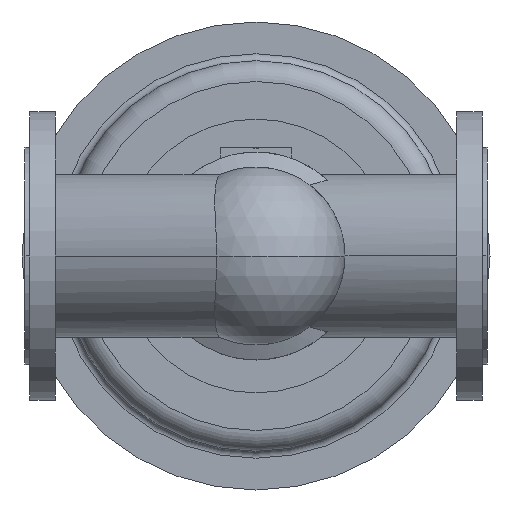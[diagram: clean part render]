
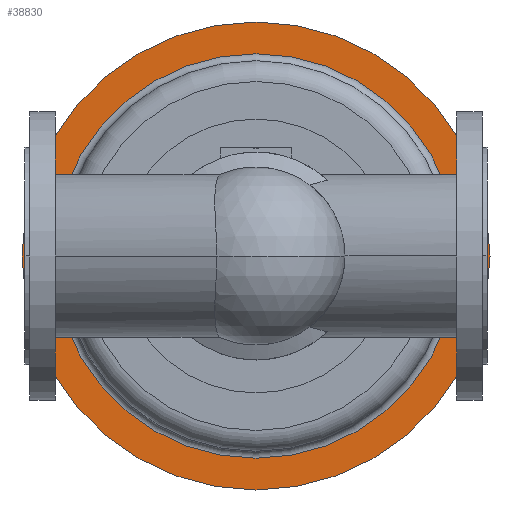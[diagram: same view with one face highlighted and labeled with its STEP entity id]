
A CAD part, front view. The second image highlights one B-rep face of the part: STEP entity #38830.
In plain terms, the highlighted planar face has unit normal (0, -1, 0).
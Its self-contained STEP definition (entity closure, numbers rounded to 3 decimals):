
#33230=CARTESIAN_POINT('',(-2.5,615.,0.));
#33240=VERTEX_POINT('',#33230);
#33400=CARTESIAN_POINT('',(402.5,615.,0.));
#33410=VERTEX_POINT('',#33400);
#33440=CARTESIAN_POINT('',(200.,615.,0.));
#33450=DIRECTION('',(0.,1.,0.));
#33460=DIRECTION('',(1.,0.,0.));
#33470=AXIS2_PLACEMENT_3D('',#33440,#33450,#33460);
#33480=CIRCLE('',#33470,202.5);
#33490=EDGE_CURVE('',#33240,#33410,#33480,.T.);
#33590=CARTESIAN_POINT('',(200.,615.,0.));
#33600=DIRECTION('',(0.,1.,0.));
#33610=DIRECTION('',(1.,0.,0.));
#33620=AXIS2_PLACEMENT_3D('',#33590,#33600,#33610);
#33630=CIRCLE('',#33620,175.);
#33640=CARTESIAN_POINT('',(200.,615.,-175.));
#33650=VERTEX_POINT('',#33640);
#33660=CARTESIAN_POINT('',(25.,615.,0.));
#33670=VERTEX_POINT('',#33660);
#33680=EDGE_CURVE('',#33650,#33670,#33630,.T.);
#33930=CARTESIAN_POINT('',(375.,615.,0.));
#33940=VERTEX_POINT('',#33930);
#33970=EDGE_CURVE('',#33940,#33650,#33630,.T.);
#38670=CARTESIAN_POINT('',(388.75,615.,0.));
#38680=DIRECTION('',(0.,-1.,0.));
#38690=DIRECTION('',(-1.,0.,0.));
#38700=AXIS2_PLACEMENT_3D('',#38670,#38680,#38690);
#38710=PLANE('',#38700);
#38720=EDGE_CURVE('',#33410,#33240,#33480,.T.);
#38730=ORIENTED_EDGE('',*,*,#38720,.F.);
#38740=ORIENTED_EDGE('',*,*,#33490,.F.);
#38750=EDGE_LOOP('',(#38740,#38730));
#38760=FACE_OUTER_BOUND('',#38750,.T.);
#38770=EDGE_CURVE('',#33670,#33940,#33630,.T.);
#38780=ORIENTED_EDGE('',*,*,#38770,.T.);
#38790=ORIENTED_EDGE('',*,*,#33680,.T.);
#38800=ORIENTED_EDGE('',*,*,#33970,.T.);
#38810=EDGE_LOOP('',(#38800,#38790,#38780));
#38820=FACE_BOUND('',#38810,.T.);
#38830=ADVANCED_FACE('',(#38760,#38820),#38710,.T.);
